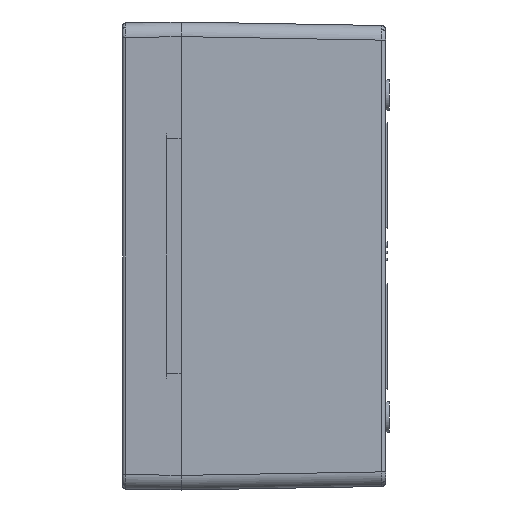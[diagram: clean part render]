
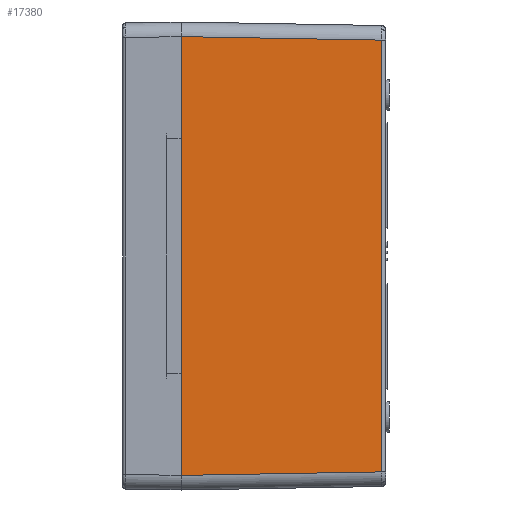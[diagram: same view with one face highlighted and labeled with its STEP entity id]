
A CAD part, left-side view. The second image highlights one B-rep face of the part: STEP entity #17380.
In plain terms, the highlighted planar face has unit normal (-1, -0.018, 0).
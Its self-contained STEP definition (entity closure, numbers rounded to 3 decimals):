
#1025 = AXIS2_PLACEMENT_3D ( 'NONE', #4815, #16704, #6523 ) ;
#1638 = DIRECTION ( 'NONE',  ( 0.017, -1., 0.017 ) ) ;
#2436 = ORIENTED_EDGE ( 'NONE', *, *, #7871, .T. ) ;
#2716 = LINE ( 'NONE', #3446, #17294 ) ;
#2915 = PLANE ( 'NONE',  #1025 ) ;
#3446 = CARTESIAN_POINT ( 'NONE',  ( -279.953, -2.704, -74.954 ) ) ;
#3472 = ORIENTED_EDGE ( 'NONE', *, *, #7505, .F. ) ;
#3881 = LINE ( 'NONE', #13898, #13464 ) ;
#4129 = ORIENTED_EDGE ( 'NONE', *, *, #16957, .T. ) ;
#4815 = CARTESIAN_POINT ( 'NONE',  ( -280., 0., 80. ) ) ;
#5150 = VERTEX_POINT ( 'NONE', #16310 ) ;
#5901 = CARTESIAN_POINT ( 'NONE',  ( -278.804, -68.526, 73.805 ) ) ;
#6386 = LINE ( 'NONE', #13666, #15464 ) ;
#6523 = DIRECTION ( 'NONE',  ( 0.017, -1., 0. ) ) ;
#7048 = VECTOR ( 'NONE', #19868, 1000. ) ;
#7471 = ORIENTED_EDGE ( 'NONE', *, *, #13001, .T. ) ;
#7505 = EDGE_CURVE ( 'NONE', #19980, #16130, #3881, .T. ) ;
#7673 = VERTEX_POINT ( 'NONE', #5901 ) ;
#7871 = EDGE_CURVE ( 'NONE', #7673, #16130, #12634, .T. ) ;
#8059 = CARTESIAN_POINT ( 'NONE',  ( -280.002, 0.087, 75.002 ) ) ;
#10360 = EDGE_LOOP ( 'NONE', ( #4129, #7471, #2436, #3472 ) ) ;
#12251 = CARTESIAN_POINT ( 'NONE',  ( -280., 0., -75.001 ) ) ;
#12634 = LINE ( 'NONE', #8059, #7048 ) ;
#13001 = EDGE_CURVE ( 'NONE', #5150, #7673, #6386, .T. ) ;
#13464 = VECTOR ( 'NONE', #15597, 1000. ) ;
#13666 = CARTESIAN_POINT ( 'NONE',  ( -278.804, -68.526, 80. ) ) ;
#13898 = CARTESIAN_POINT ( 'NONE',  ( -280., 0., 80. ) ) ;
#14391 = FACE_OUTER_BOUND ( 'NONE', #10360, .T. ) ;
#15442 = DIRECTION ( 'NONE',  ( 0., 0., 1. ) ) ;
#15464 = VECTOR ( 'NONE', #15442, 1000. ) ;
#15597 = DIRECTION ( 'NONE',  ( 0., 0., 1. ) ) ;
#16130 = VERTEX_POINT ( 'NONE', #19102 ) ;
#16310 = CARTESIAN_POINT ( 'NONE',  ( -278.804, -68.526, -73.805 ) ) ;
#16704 = DIRECTION ( 'NONE',  ( -1., -0.017, 0. ) ) ;
#16957 = EDGE_CURVE ( 'NONE', #19980, #5150, #2716, .T. ) ;
#17294 = VECTOR ( 'NONE', #1638, 1000. ) ;
#17380 = ADVANCED_FACE ( 'NONE', ( #14391 ), #2915, .T. ) ;
#19102 = CARTESIAN_POINT ( 'NONE',  ( -280., 0., 75.001 ) ) ;
#19868 = DIRECTION ( 'NONE',  ( -0.017, 1., 0.017 ) ) ;
#19980 = VERTEX_POINT ( 'NONE', #12251 ) ;
